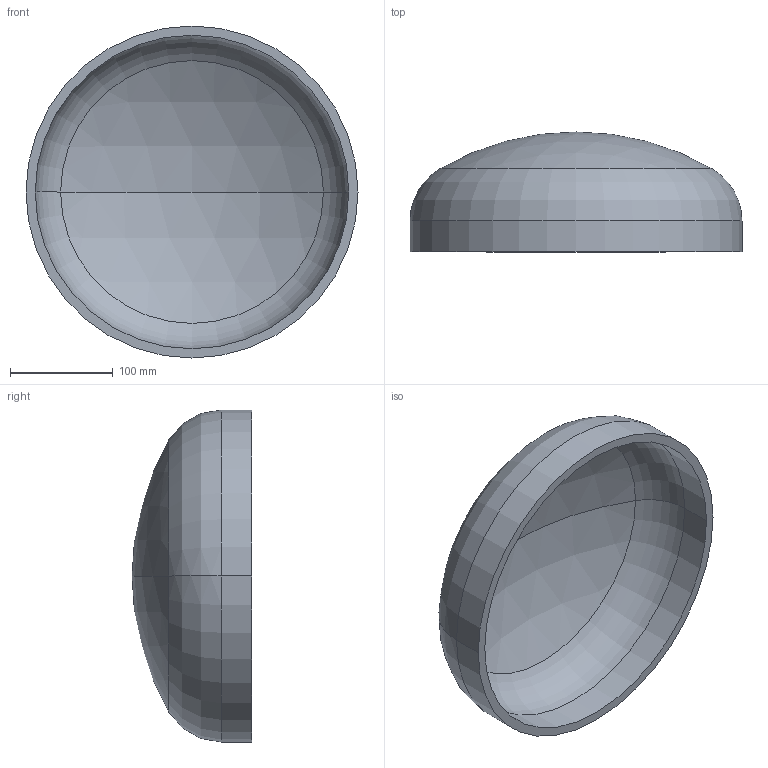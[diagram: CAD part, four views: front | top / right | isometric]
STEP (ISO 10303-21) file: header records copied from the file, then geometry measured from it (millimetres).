
FILE_DESCRIPTION (( 'STEP AP203' ), '1' );
FILE_NAME ('DIN 28013 Korbbogenform_-_Boden DIN 28013 - 323,9 x 30 - I - s=9.step', '2016-07-01T07:44:14', ( '' ), ( '' ), 'SwSTEP 2.0', 'SolidWorks 2013', '' );
FILE_SCHEMA (( 'CONFIG_CONTROL_DESIGN' ));
Length unit declared in the file: millimetre
Products named in the file (1): DIN 28013 Korbbogenform_-_Boden DIN 28013 - 323,9 x 30 - I - s=9
Bounding box: 323.9 x 116.88 x 323.9 mm (x, y, z)
Volume: 1259517.2 mm3; surface area: 288965.9 mm2
Topology: 1 solids, 1 shells, 13 faces, 24 edges, 14 vertices
Faces by surface type: torus 4, cylinder 4, sphere 4, plane 1
Entity records: 407 total; most frequent: DIRECTION 72, CARTESIAN_POINT 52, ORIENTED_EDGE 48, AXIS2_PLACEMENT_3D 34, EDGE_CURVE 24, CIRCLE 20, VERTEX_POINT 14, EDGE_LOOP 14
